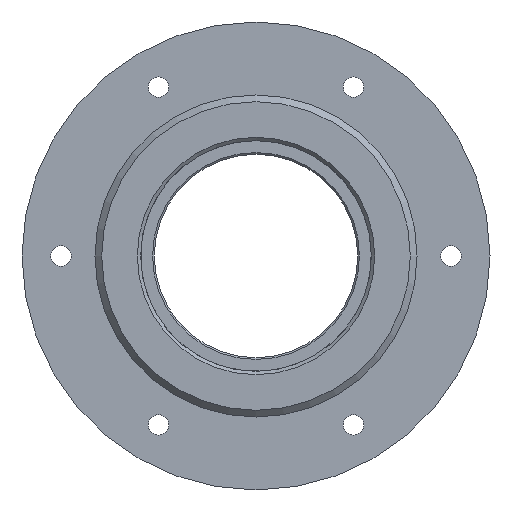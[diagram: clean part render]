
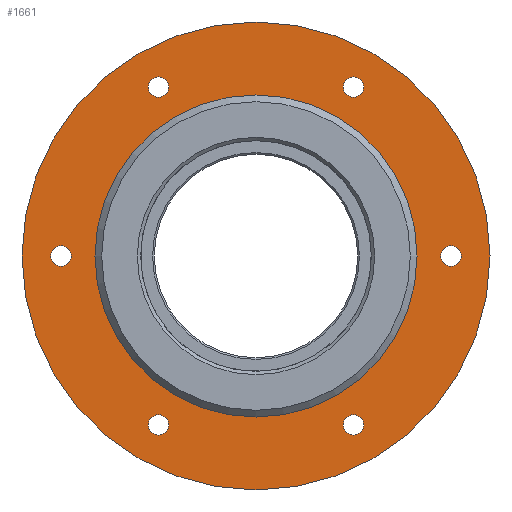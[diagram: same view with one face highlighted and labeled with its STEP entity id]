
A CAD part, front view. The second image highlights one B-rep face of the part: STEP entity #1661.
In plain terms, the highlighted planar face has unit normal (0, -1, 0).
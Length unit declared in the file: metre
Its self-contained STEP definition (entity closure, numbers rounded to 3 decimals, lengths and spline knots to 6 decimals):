
#1661=ADVANCED_FACE('',(#3035,#3036,#3037,#3038,#3039,#3040,#3041,#3042),#3043,.F.);
#3035=FACE_BOUND('',#5940,.T.);
#3036=FACE_BOUND('',#5941,.T.);
#3037=FACE_BOUND('',#5942,.T.);
#3038=FACE_BOUND('',#5943,.T.);
#3039=FACE_BOUND('',#5944,.T.);
#3040=FACE_BOUND('',#5945,.T.);
#3041=FACE_OUTER_BOUND('',#5946,.T.);
#3042=FACE_BOUND('',#5947,.T.);
#3043=PLANE('',#5948);
#5940=EDGE_LOOP('',(#7954));
#5941=EDGE_LOOP('',(#7955));
#5942=EDGE_LOOP('',(#7956));
#5943=EDGE_LOOP('',(#7957));
#5944=EDGE_LOOP('',(#7958));
#5945=EDGE_LOOP('',(#7959));
#5946=EDGE_LOOP('',(#7960));
#5947=EDGE_LOOP('',(#7961));
#5948=AXIS2_PLACEMENT_3D('',#7962,#7963,#7964);
#7954=ORIENTED_EDGE('',*,*,#8319,.T.);
#7955=ORIENTED_EDGE('',*,*,#8349,.T.);
#7956=ORIENTED_EDGE('',*,*,#8350,.T.);
#7957=ORIENTED_EDGE('',*,*,#8351,.T.);
#7958=ORIENTED_EDGE('',*,*,#8234,.T.);
#7959=ORIENTED_EDGE('',*,*,#8352,.T.);
#7960=ORIENTED_EDGE('',*,*,#8337,.F.);
#7961=ORIENTED_EDGE('',*,*,#8309,.T.);
#7962=CARTESIAN_POINT('',(0.203114,0.213755,0.0));
#7963=DIRECTION('',(0.0,1.0,0.0));
#7964=DIRECTION('',(0.0,0.0,1.0));
#8234=EDGE_CURVE('',#8408,#8408,#8409,.T.);
#8309=EDGE_CURVE('',#8524,#8524,#8525,.T.);
#8319=EDGE_CURVE('',#8539,#8539,#8540,.T.);
#8337=EDGE_CURVE('',#8561,#8561,#8562,.T.);
#8349=EDGE_CURVE('',#8577,#8577,#8578,.T.);
#8350=EDGE_CURVE('',#8579,#8579,#8580,.T.);
#8351=EDGE_CURVE('',#8581,#8581,#8582,.T.);
#8352=EDGE_CURVE('',#8583,#8583,#8584,.T.);
#8408=VERTEX_POINT('',#8676);
#8409=CIRCLE('',#8677,0.003);
#8524=VERTEX_POINT('',#8838);
#8525=CIRCLE('',#8839,0.0475);
#8539=VERTEX_POINT('',#8856);
#8540=CIRCLE('',#8857,0.003);
#8561=VERTEX_POINT('',#8914);
#8562=CIRCLE('',#8915,0.069);
#8577=VERTEX_POINT('',#8933);
#8578=CIRCLE('',#8934,0.003);
#8579=VERTEX_POINT('',#8935);
#8580=CIRCLE('',#8936,0.003);
#8581=VERTEX_POINT('',#8937);
#8582=CIRCLE('',#8938,0.003);
#8583=VERTEX_POINT('',#8939);
#8584=CIRCLE('',#8940,0.003);
#8676=CARTESIAN_POINT('',(0.221864,0.213755,-0.046796));
#8677=AXIS2_PLACEMENT_3D('',#9016,#9017,#9018);
#8838=CARTESIAN_POINT('',(0.250614,0.213755,0.0475));
#8839=AXIS2_PLACEMENT_3D('',#9123,#9124,#9125);
#8856=CARTESIAN_POINT('',(0.221864,0.213755,0.052796));
#8857=AXIS2_PLACEMENT_3D('',#9138,#9139,#9140);
#8914=CARTESIAN_POINT('',(0.250614,0.213755,0.069));
#8915=AXIS2_PLACEMENT_3D('',#9154,#9155,#9156);
#8933=CARTESIAN_POINT('',(0.279364,0.213755,0.052796));
#8934=AXIS2_PLACEMENT_3D('',#9169,#9170,#9171);
#8935=CARTESIAN_POINT('',(0.308114,0.213755,0.003));
#8936=AXIS2_PLACEMENT_3D('',#9172,#9173,#9174);
#8937=CARTESIAN_POINT('',(0.279364,0.213755,-0.046796));
#8938=AXIS2_PLACEMENT_3D('',#9175,#9176,#9177);
#8939=CARTESIAN_POINT('',(0.193114,0.213755,0.003));
#8940=AXIS2_PLACEMENT_3D('',#9178,#9179,#9180);
#9016=CARTESIAN_POINT('',(0.221864,0.213755,-0.049796));
#9017=DIRECTION('',(0.0,1.0,0.0));
#9018=DIRECTION('',(0.0,0.0,1.0));
#9123=CARTESIAN_POINT('',(0.250614,0.213755,0.0));
#9124=DIRECTION('',(0.0,1.0,0.0));
#9125=DIRECTION('',(0.0,0.0,1.0));
#9138=CARTESIAN_POINT('',(0.221864,0.213755,0.049796));
#9139=DIRECTION('',(0.0,1.0,0.0));
#9140=DIRECTION('',(0.0,0.0,1.0));
#9154=CARTESIAN_POINT('',(0.250614,0.213755,0.0));
#9155=DIRECTION('',(0.0,1.0,0.0));
#9156=DIRECTION('',(0.0,0.0,1.0));
#9169=CARTESIAN_POINT('',(0.279364,0.213755,0.049796));
#9170=DIRECTION('',(0.0,1.0,0.0));
#9171=DIRECTION('',(0.0,0.0,1.0));
#9172=CARTESIAN_POINT('',(0.308114,0.213755,0.));
#9173=DIRECTION('',(0.0,1.0,0.0));
#9174=DIRECTION('',(0.0,0.0,1.0));
#9175=CARTESIAN_POINT('',(0.279364,0.213755,-0.049796));
#9176=DIRECTION('',(0.0,1.0,0.0));
#9177=DIRECTION('',(0.0,0.0,1.0));
#9178=CARTESIAN_POINT('',(0.193114,0.213755,0.0));
#9179=DIRECTION('',(0.0,1.0,0.0));
#9180=DIRECTION('',(0.0,0.0,1.0));
